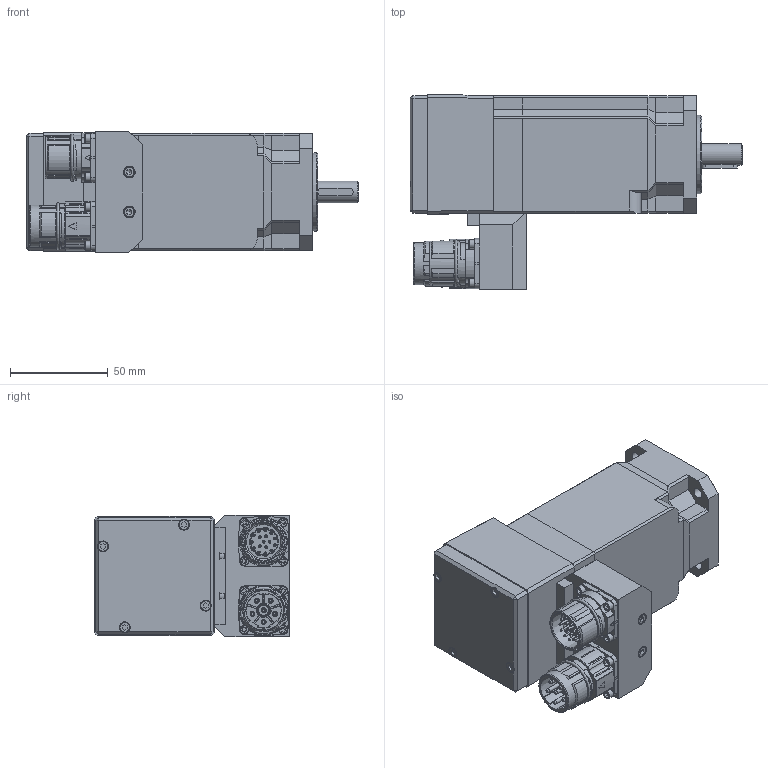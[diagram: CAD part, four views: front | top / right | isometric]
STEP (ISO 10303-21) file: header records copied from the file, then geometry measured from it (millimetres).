
FILE_DESCRIPTION(/* description */ (''),/* implementation_level */ '2;1');
FILE_NAME(/* name */ 'W:\Intelligent Motion\Cinisello\290_SMx60.1,4.8.11.2ID.65.C7\WIP\SMx60.1,4.8.11.2ID.65.C7.stp',/* time_stamp */ '2019-07-19T13:06:32+06:00',/* author */ ('TK00554015'),/* organization */ (''),/* preprocessor_version */ 'ST-DEVELOPER v16.13',/* originating_system */ 'Autodesk Inventor 2018',/* authorisation */ '');
FILE_SCHEMA (('AUTOMOTIVE_DESIGN { 1 0 10303 214 3 1 1 }'));
Products named in the file (1): SMx60.1,4.8.11.2ID.65.C7
Bounding box: 169.5 x 99.58 x 62 mm (x, y, z)
Volume: 575294.3 mm3; surface area: 60577.1 mm2
Topology: 2 solids, 2 shells, 1234 faces, 2974 edges, 1816 vertices
Faces by surface type: plane 461, cylinder 370, bspline 131, torus 129, cone 97, sphere 46
Full cylindrical faces by diameter (mm): 1 x17, 1.2 x17, 2 x6, 2.15 x6, 3.167 x1, 4 x1, 4.333 x1, 4.5 x8, 5.5 x9, 6 x2, 11 x1, 12 x1, 17.7 x1, 20.1 x1, 21.15 x3, 21.5 x1, 21.6 x1, 26 x1, 40 x1
Entity records: 52864 total; most frequent: CARTESIAN_POINT 24004, DIRECTION 5819, ORIENTED_EDGE 5486, EDGE_CURVE 2743, AXIS2_PLACEMENT_3D 2285, VERTEX_POINT 1757, EDGE_LOOP 1484, LINE 1249
